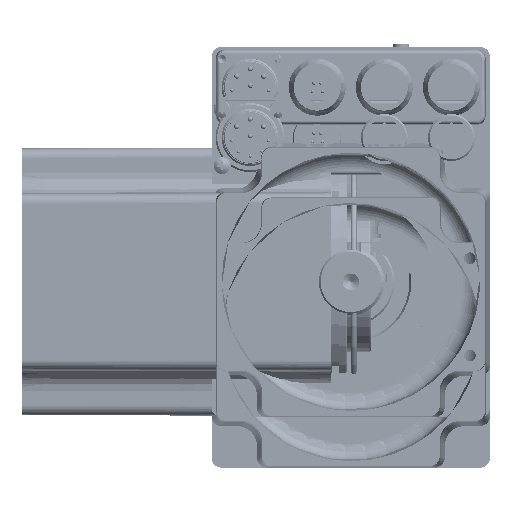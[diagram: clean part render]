
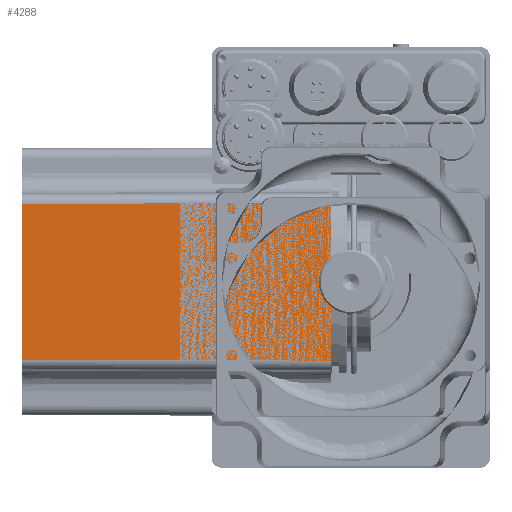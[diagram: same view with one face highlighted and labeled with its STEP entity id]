
A CAD part, front view. The second image highlights one B-rep face of the part: STEP entity #4288.
In plain terms, the highlighted planar face has unit normal (-0.003, -1, 0).
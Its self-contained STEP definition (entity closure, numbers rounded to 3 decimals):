
#4288 = ADVANCED_FACE( '', ( #9663 ), #9664, .T. );
#9663 = FACE_OUTER_BOUND( '', #21906, .T. );
#9664 = PLANE( '', #21907 );
#21906 = EDGE_LOOP( '', ( #36370, #36371, #36372, #36373 ) );
#21907 = AXIS2_PLACEMENT_3D( '', #36374, #36375, #36376 );
#36370 = ORIENTED_EDGE( '', *, *, #44986, .T. );
#36371 = ORIENTED_EDGE( '', *, *, #44987, .T. );
#36372 = ORIENTED_EDGE( '', *, *, #44988, .T. );
#36373 = ORIENTED_EDGE( '', *, *, #42560, .T. );
#36374 = CARTESIAN_POINT( '', ( -5., -40., 0. ) );
#36375 = DIRECTION( '', ( -0.003, -1., 0. ) );
#36376 = DIRECTION( '', ( 1., -0.003, 0. ) );
#42560 = EDGE_CURVE( '', #48310, #48308, #48311, .T. );
#44986 = EDGE_CURVE( '', #48308, #51938, #51939, .T. );
#44987 = EDGE_CURVE( '', #51938, #51940, #51941, .T. );
#44988 = EDGE_CURVE( '', #51940, #48310, #51942, .T. );
#48308 = VERTEX_POINT( '', #62455 );
#48310 = VERTEX_POINT( '', #62457 );
#48311 = LINE( '', #62458, #62459 );
#51938 = VERTEX_POINT( '', #68713 );
#51939 = LINE( '', #68714, #68715 );
#51940 = VERTEX_POINT( '', #68716 );
#51941 = LINE( '', #68717, #68718 );
#51942 = LINE( '', #68719, #68720 );
#62455 = CARTESIAN_POINT( '', ( -98., -39.729, -23.229 ) );
#62457 = CARTESIAN_POINT( '', ( -98., -39.729, 23.229 ) );
#62458 = CARTESIAN_POINT( '', ( -98., -39.729, 0. ) );
#62459 = VECTOR( '', #73244, 1000. );
#68713 = CARTESIAN_POINT( '', ( -6., -39.997, -23.497 ) );
#68714 = CARTESIAN_POINT( '', ( -4.991, -40., -23.5 ) );
#68715 = VECTOR( '', #76437, 1000. );
#68716 = CARTESIAN_POINT( '', ( -6., -39.997, 23.497 ) );
#68717 = CARTESIAN_POINT( '', ( -6., -39.997, 0. ) );
#68718 = VECTOR( '', #76438, 1000. );
#68719 = CARTESIAN_POINT( '', ( -98.991, -39.727, 23.227 ) );
#68720 = VECTOR( '', #76439, 1000. );
#73244 = DIRECTION( '', ( 0., 0., -1. ) );
#76437 = DIRECTION( '', ( 1., -0.003, -0.003 ) );
#76438 = DIRECTION( '', ( 0., 0., 1. ) );
#76439 = DIRECTION( '', ( -1., 0.003, -0.003 ) );
